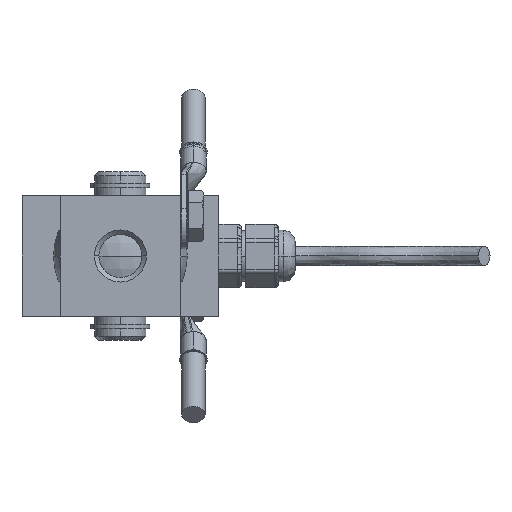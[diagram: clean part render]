
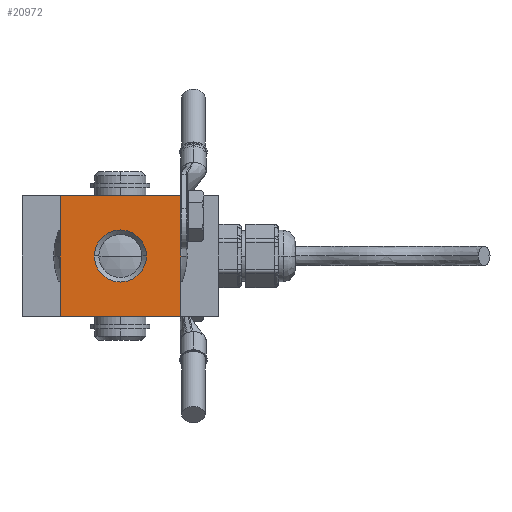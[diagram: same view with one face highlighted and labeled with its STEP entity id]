
A CAD part, front view. The second image highlights one B-rep face of the part: STEP entity #20972.
In plain terms, the highlighted planar face has unit normal (0, -1, 0).
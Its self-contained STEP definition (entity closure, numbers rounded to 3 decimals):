
#145 = ORIENTED_EDGE ( 'NONE', *, *, #397, .F. ) ;
#303 = VERTEX_POINT ( 'NONE', #5237 ) ;
#397 = EDGE_CURVE ( 'NONE', #6186, #303, #5521, .T. ) ;
#411 = VECTOR ( 'NONE', #5737, 1000. ) ;
#1157 = AXIS2_PLACEMENT_3D ( 'NONE', #19968, #8330, #21945 ) ;
#1205 = EDGE_CURVE ( 'NONE', #7687, #6186, #19497, .T. ) ;
#1333 = AXIS2_PLACEMENT_3D ( 'NONE', #16342, #20256, #8621 ) ;
#1783 = DIRECTION ( 'NONE',  ( 1., 0., 0. ) ) ;
#2371 = AXIS2_PLACEMENT_3D ( 'NONE', #6020, #19594, #7959 ) ;
#2852 = EDGE_CURVE ( 'NONE', #303, #21257, #14871, .T. ) ;
#3387 = VERTEX_POINT ( 'NONE', #13078 ) ;
#4016 = VECTOR ( 'NONE', #1783, 1000. ) ;
#4028 = CARTESIAN_POINT ( 'NONE',  ( 30., 0., 0. ) ) ;
#4430 = LINE ( 'NONE', #22357, #8348 ) ;
#5237 = CARTESIAN_POINT ( 'NONE',  ( 30., 0., -30. ) ) ;
#5521 = LINE ( 'NONE', #23172, #411 ) ;
#5737 = DIRECTION ( 'NONE',  ( 0., 0., -1. ) ) ;
#5768 = CARTESIAN_POINT ( 'NONE',  ( 0., 0., -30. ) ) ;
#6020 = CARTESIAN_POINT ( 'NONE',  ( 15., 0., -15. ) ) ;
#6038 = ORIENTED_EDGE ( 'NONE', *, *, #11569, .F. ) ;
#6186 = VERTEX_POINT ( 'NONE', #4028 ) ;
#6268 = FACE_BOUND ( 'NONE', #23075, .T. ) ;
#6686 = PLANE ( 'NONE',  #1333 ) ;
#6757 = ORIENTED_EDGE ( 'NONE', *, *, #21923, .F. ) ;
#6879 = FACE_OUTER_BOUND ( 'NONE', #23391, .T. ) ;
#7008 = ORIENTED_EDGE ( 'NONE', *, *, #2852, .F. ) ;
#7687 = VERTEX_POINT ( 'NONE', #21979 ) ;
#7749 = ORIENTED_EDGE ( 'NONE', *, *, #1205, .F. ) ;
#7959 = DIRECTION ( 'NONE',  ( 0., 0., -1. ) ) ;
#8330 = DIRECTION ( 'NONE',  ( 0., -1., 0. ) ) ;
#8348 = VECTOR ( 'NONE', #14511, 1000. ) ;
#8621 = DIRECTION ( 'NONE',  ( 0., 0., -1. ) ) ;
#9693 = VECTOR ( 'NONE', #23281, 1000. ) ;
#11569 = EDGE_CURVE ( 'NONE', #22481, #3387, #12256, .T. ) ;
#12256 = CIRCLE ( 'NONE', #2371, 6.477 ) ;
#13078 = CARTESIAN_POINT ( 'NONE',  ( 15., 0., -21.477 ) ) ;
#14495 = ORIENTED_EDGE ( 'NONE', *, *, #22565, .F. ) ;
#14511 = DIRECTION ( 'NONE',  ( 0., 0., 1. ) ) ;
#14871 = LINE ( 'NONE', #5768, #9693 ) ;
#16342 = CARTESIAN_POINT ( 'NONE',  ( 0., 0., -30. ) ) ;
#17259 = CARTESIAN_POINT ( 'NONE',  ( 0., 0., 0. ) ) ;
#19091 = CIRCLE ( 'NONE', #1157, 6.477 ) ;
#19497 = LINE ( 'NONE', #17259, #4016 ) ;
#19594 = DIRECTION ( 'NONE',  ( 0., -1., 0. ) ) ;
#19721 = CARTESIAN_POINT ( 'NONE',  ( 15., 0., -8.523 ) ) ;
#19968 = CARTESIAN_POINT ( 'NONE',  ( 15., 0., -15. ) ) ;
#20256 = DIRECTION ( 'NONE',  ( 0., -1., 0. ) ) ;
#20972 = ADVANCED_FACE ( 'NONE', ( #6268, #6879 ), #6686, .T. ) ;
#21257 = VERTEX_POINT ( 'NONE', #25089 ) ;
#21923 = EDGE_CURVE ( 'NONE', #21257, #7687, #4430, .T. ) ;
#21945 = DIRECTION ( 'NONE',  ( 0., 0., -1. ) ) ;
#21979 = CARTESIAN_POINT ( 'NONE',  ( 0., 0., 0. ) ) ;
#22357 = CARTESIAN_POINT ( 'NONE',  ( 0., 0., 0. ) ) ;
#22481 = VERTEX_POINT ( 'NONE', #19721 ) ;
#22565 = EDGE_CURVE ( 'NONE', #3387, #22481, #19091, .T. ) ;
#23075 = EDGE_LOOP ( 'NONE', ( #14495, #6038 ) ) ;
#23172 = CARTESIAN_POINT ( 'NONE',  ( 30., 0., 0. ) ) ;
#23281 = DIRECTION ( 'NONE',  ( -1., 0., 0. ) ) ;
#23391 = EDGE_LOOP ( 'NONE', ( #6757, #7008, #145, #7749 ) ) ;
#25089 = CARTESIAN_POINT ( 'NONE',  ( 0., 0., -30. ) ) ;
